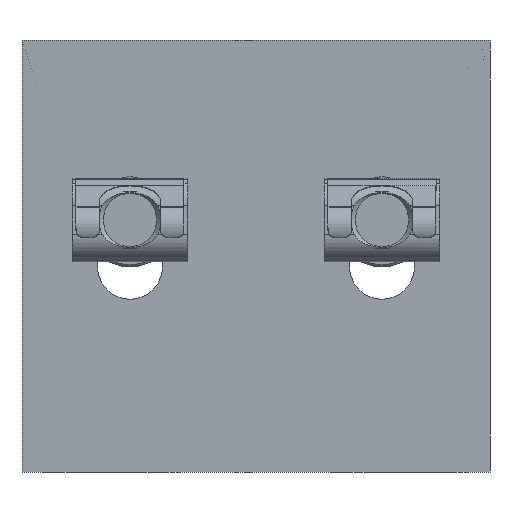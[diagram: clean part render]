
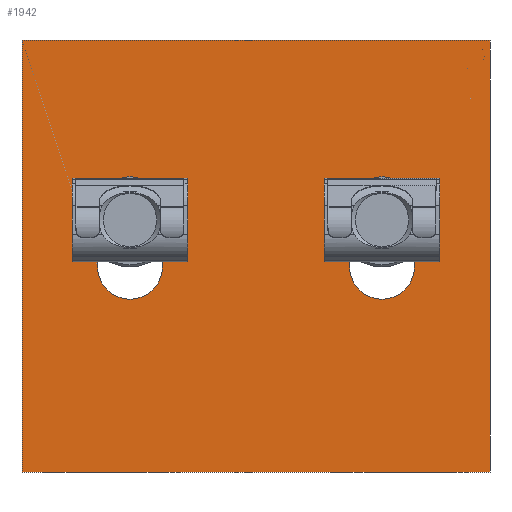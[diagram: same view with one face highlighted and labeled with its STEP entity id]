
A CAD part, left-side view. The second image highlights one B-rep face of the part: STEP entity #1942.
In plain terms, the highlighted planar face has unit normal (-1, 0, 0).
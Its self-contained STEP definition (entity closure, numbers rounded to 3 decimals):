
#122=CIRCLE('',#2617,4.5);
#123=CIRCLE('',#2621,4.5);
#124=CIRCLE('',#2622,4.5);
#125=CIRCLE('',#2623,4.5);
#243=ORIENTED_EDGE('',*,*,#808,.F.);
#244=ORIENTED_EDGE('',*,*,#812,.F.);
#245=ORIENTED_EDGE('',*,*,#816,.F.);
#246=ORIENTED_EDGE('',*,*,#814,.F.);
#247=ORIENTED_EDGE('',*,*,#817,.F.);
#248=ORIENTED_EDGE('',*,*,#818,.F.);
#249=ORIENTED_EDGE('',*,*,#819,.T.);
#250=ORIENTED_EDGE('',*,*,#772,.T.);
#251=ORIENTED_EDGE('',*,*,#820,.T.);
#252=ORIENTED_EDGE('',*,*,#821,.T.);
#253=ORIENTED_EDGE('',*,*,#822,.T.);
#254=ORIENTED_EDGE('',*,*,#823,.T.);
#772=EDGE_CURVE('',#1061,#1059,#1254,.T.);
#808=EDGE_CURVE('',#1095,#1096,#122,.T.);
#812=EDGE_CURVE('',#1098,#1095,#1282,.T.);
#814=EDGE_CURVE('',#1096,#1100,#1284,.T.);
#816=EDGE_CURVE('',#1100,#1098,#123,.T.);
#817=EDGE_CURVE('',#1101,#1059,#1286,.T.);
#818=EDGE_CURVE('',#1102,#1101,#1287,.T.);
#819=EDGE_CURVE('',#1102,#1061,#1288,.T.);
#820=EDGE_CURVE('',#1103,#1104,#1289,.T.);
#821=EDGE_CURVE('',#1104,#1105,#124,.F.);
#822=EDGE_CURVE('',#1105,#1106,#1290,.T.);
#823=EDGE_CURVE('',#1106,#1103,#125,.F.);
#1059=VERTEX_POINT('',#3392);
#1061=VERTEX_POINT('',#3395);
#1095=VERTEX_POINT('',#3467);
#1096=VERTEX_POINT('',#3469);
#1098=VERTEX_POINT('',#3475);
#1100=VERTEX_POINT('',#3481);
#1101=VERTEX_POINT('',#3486);
#1102=VERTEX_POINT('',#3488);
#1103=VERTEX_POINT('',#3491);
#1104=VERTEX_POINT('',#3492);
#1105=VERTEX_POINT('',#3494);
#1106=VERTEX_POINT('',#3496);
#1254=LINE('',#3394,#1436);
#1282=LINE('',#3476,#1464);
#1284=LINE('',#3480,#1466);
#1286=LINE('',#3485,#1468);
#1287=LINE('',#3487,#1469);
#1288=LINE('',#3489,#1470);
#1289=LINE('',#3490,#1471);
#1290=LINE('',#3495,#1472);
#1436=VECTOR('',#2808,1000.);
#1464=VECTOR('',#2868,1000.);
#1466=VECTOR('',#2872,1000.);
#1468=VECTOR('',#2878,1000.);
#1469=VECTOR('',#2879,1000.);
#1470=VECTOR('',#2880,1000.);
#1471=VECTOR('',#2881,1000.);
#1472=VECTOR('',#2884,1000.);
#1627=EDGE_LOOP('',(#243,#244,#245,#246));
#1628=EDGE_LOOP('',(#247,#248,#249,#250));
#1629=EDGE_LOOP('',(#251,#252,#253,#254));
#1755=FACE_BOUND('',#1627,.T.);
#1756=FACE_BOUND('',#1628,.T.);
#1757=FACE_BOUND('',#1629,.T.);
#1878=PLANE('',#2620);
#1942=ADVANCED_FACE('',(#1755,#1756,#1757),#1878,.T.);
#2617=AXIS2_PLACEMENT_3D('',#3468,#2861,#2862);
#2620=AXIS2_PLACEMENT_3D('',#3483,#2874,#2875);
#2621=AXIS2_PLACEMENT_3D('',#3484,#2876,#2877);
#2622=AXIS2_PLACEMENT_3D('',#3493,#2882,#2883);
#2623=AXIS2_PLACEMENT_3D('',#3497,#2885,#2886);
#2808=DIRECTION('',(0.,-1.,0.));
#2861=DIRECTION('',(-1.,0.,0.));
#2862=DIRECTION('',(0.,0.,1.));
#2868=DIRECTION('',(0.,0.,-1.));
#2872=DIRECTION('',(0.,0.,1.));
#2874=DIRECTION('',(-1.,0.,0.));
#2875=DIRECTION('',(0.,0.,1.));
#2876=DIRECTION('',(-1.,0.,0.));
#2877=DIRECTION('',(0.,0.,1.));
#2878=DIRECTION('',(0.,0.,-1.));
#2879=DIRECTION('',(0.,-1.,0.));
#2880=DIRECTION('',(0.,0.,-1.));
#2881=DIRECTION('',(0.,0.,1.));
#2882=DIRECTION('',(-1.,0.,0.));
#2883=DIRECTION('',(0.,0.,1.));
#2884=DIRECTION('',(0.,0.,-1.));
#2885=DIRECTION('',(-1.,0.,0.));
#2886=DIRECTION('',(0.,0.,1.));
#3392=CARTESIAN_POINT('',(0.,0.,0.));
#3394=CARTESIAN_POINT('',(0.,65.,0.));
#3395=CARTESIAN_POINT('',(0.,65.,0.));
#3467=CARTESIAN_POINT('',(0.,19.5,28.5));
#3468=CARTESIAN_POINT('',(0.,15.,28.5));
#3469=CARTESIAN_POINT('',(0.,10.5,28.5));
#3475=CARTESIAN_POINT('',(0.,19.5,36.5));
#3476=CARTESIAN_POINT('',(0.,19.5,60.));
#3480=CARTESIAN_POINT('',(0.,10.5,60.));
#3481=CARTESIAN_POINT('',(0.,10.5,36.5));
#3483=CARTESIAN_POINT('',(0.,65.,60.));
#3484=CARTESIAN_POINT('',(0.,15.,36.5));
#3485=CARTESIAN_POINT('',(0.,0.,60.));
#3486=CARTESIAN_POINT('',(0.,0.,60.));
#3487=CARTESIAN_POINT('',(0.,65.,60.));
#3488=CARTESIAN_POINT('',(0.,65.,60.));
#3489=CARTESIAN_POINT('',(0.,65.,60.));
#3490=CARTESIAN_POINT('',(0.,54.5,60.));
#3491=CARTESIAN_POINT('',(0.,54.5,28.5));
#3492=CARTESIAN_POINT('',(0.,54.5,36.5));
#3493=CARTESIAN_POINT('',(0.,50.,36.5));
#3494=CARTESIAN_POINT('',(0.,45.5,36.5));
#3495=CARTESIAN_POINT('',(0.,45.5,60.));
#3496=CARTESIAN_POINT('',(0.,45.5,28.5));
#3497=CARTESIAN_POINT('',(0.,50.,28.5));
